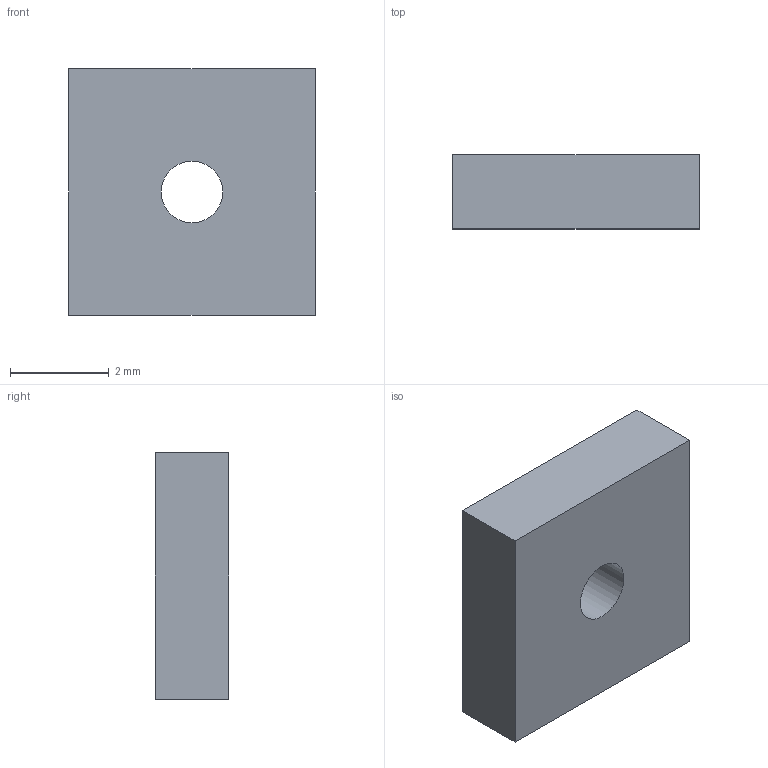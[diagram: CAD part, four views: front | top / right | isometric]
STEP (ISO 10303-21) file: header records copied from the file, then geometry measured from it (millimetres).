
FILE_DESCRIPTION(('Open CASCADE Model'),'2;1');
FILE_NAME('REAR_THREADED_CROSSBAR_-36_65','2026-09-06T11:49:22',( 'Author'),('Open CASCADE'),'Open CASCADE STEP processor 7.8', 'build123d','Unknown');
FILE_SCHEMA(('AUTOMOTIVE_DESIGN { 1 0 10303 214 1 1 1 1 }'));
Length unit declared in the file: millimetre
Products named in the file (1): REAR_THREADED_CROSSBAR_-36_65
Bounding box: 5 x 1.5 x 5 mm (x, y, z)
Volume: 35.7 mm3; surface area: 83.4 mm2
Topology: 1 solids, 1 shells, 7 faces, 15 edges, 10 vertices
Faces by surface type: plane 6, cylinder 1
Full cylindrical faces by diameter (mm): 1.25 x1
Entity records: 406 total; most frequent: CARTESIAN_POINT 75, DIRECTION 61, LINE 41, VECTOR 41, ORIENTED_EDGE 30, PCURVE 30, DEFINITIONAL_REPRESENTATION 30, EDGE_CURVE 15
